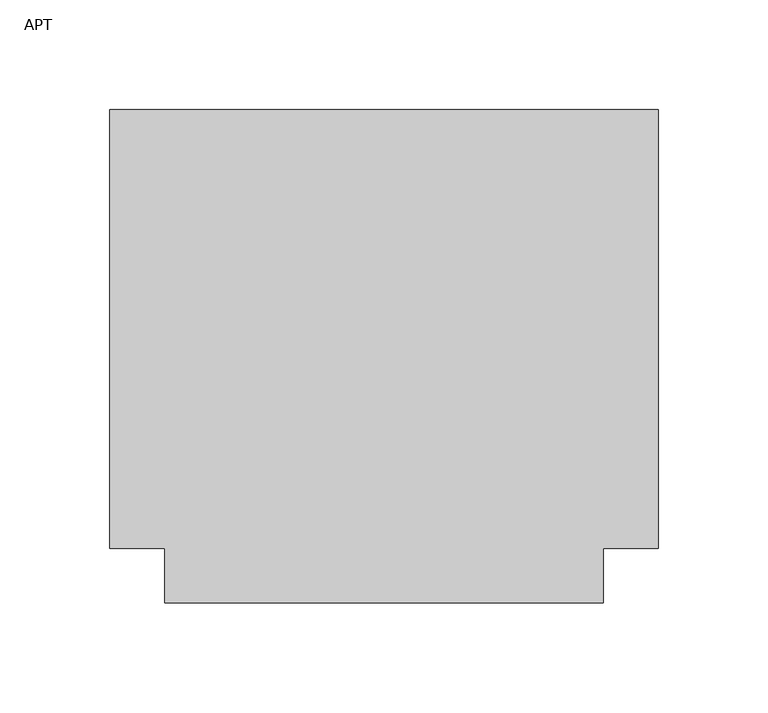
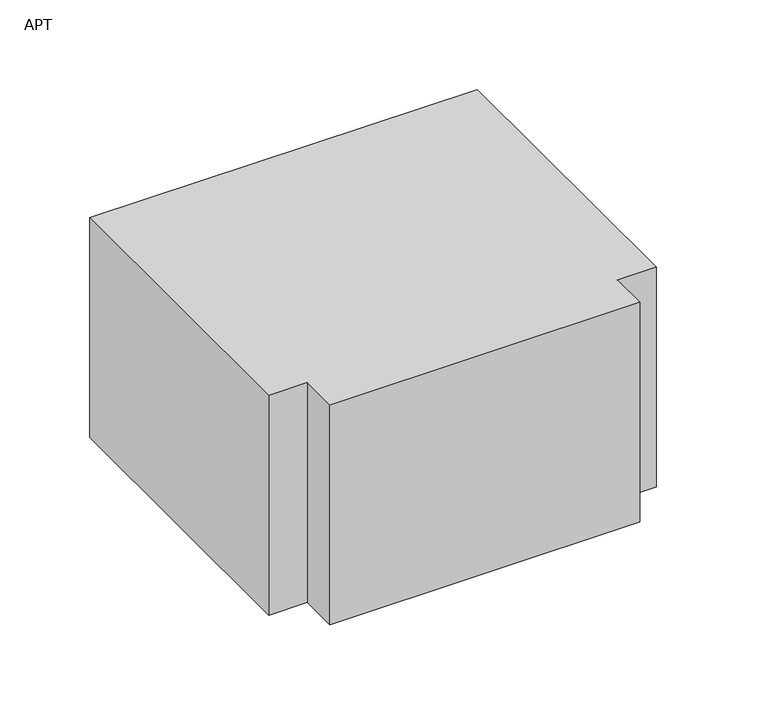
"""IFC4 building model written with IfcOpenShell, lengths in millimetres: duct fitting geometry, M_Te rectangular : APT."""

import ifcopenshell
import ifcopenshell.guid

model = None  # the IFC model being written
_history = None  # IfcOwnerHistory: only IFC2X3 demands one
_inside = {}  # id of a spatial element -> (the spatial element, [elements in it])
_under = {}  # id of a project, library or spatial element -> (it, [spatial elements below it])
_declared = {}  # id of a project -> (the project, [libraries it declares])
_typed = {}  # id of a type object -> (the type object, [elements of that type])
_made_of = {}  # id of a material, layer set ... -> (it, [elements and type objects made of it])


def new_model(schema):
    """Start an empty IFC model of exactly this schema.

    Asked for "IFC4X3", IfcOpenShell would pick the latest addendum, in which some entities
    have other attributes; the version numbers below select the first issue.
    IFC2X3 requires an IfcOwnerHistory on every rooted entity: one is made here for all.
    """
    global model, _history
    if schema == "IFC4X3":
        model = ifcopenshell.file(schema_version=(4, 3, 0, 0))
    else:
        model = ifcopenshell.file(schema=schema)
    _inside.clear()
    _under.clear()
    _declared.clear()
    _typed.clear()
    _made_of.clear()
    _history = None
    if model.schema == "IFC2X3":
        org = make("IfcOrganization", Name="unknown")
        user = make(
            "IfcPersonAndOrganization",
            ThePerson=make("IfcPerson", FamilyName="unknown"),
            TheOrganization=org,
        )
        app = make(
            "IfcApplication",
            ApplicationDeveloper=org,
            Version="unknown",
            ApplicationFullName="unknown",
            ApplicationIdentifier="unknown",
        )
        _history = make(
            "IfcOwnerHistory",
            OwningUser=user,
            OwningApplication=app,
            ChangeAction="ADDED",
            CreationDate=0,
        )
    return model


def make(cls, **values):
    """One entity of the class cls with the attributes given. An attribute that is None is left unset."""
    return model.create_entity(
        cls, **{name: value for name, value in values.items() if value is not None}
    )


def rooted(cls, **values):
    """An entity with a GlobalId (a new one), such as an element, a storey or a relation."""
    return make(cls, GlobalId=ifcopenshell.guid.new(), OwnerHistory=_history, **values)


def si_unit(unit_type, name, prefix=None):
    """IfcSIUnit, for example si_unit("LENGTHUNIT", "METRE", prefix="MILLI")."""
    return make("IfcSIUnit", UnitType=unit_type, Prefix=prefix, Name=name)


def assignment(units):
    """IfcUnitAssignment: the units of a project."""
    return None if units is None else make("IfcUnitAssignment", Units=units)


def point(xyz):
    """IfcCartesianPoint."""
    return None if xyz is None else make("IfcCartesianPoint", Coordinates=xyz)


def direction(xyz):
    """IfcDirection."""
    return None if xyz is None else make("IfcDirection", DirectionRatios=xyz)


def frame(location, z_axis=None, x_axis=None):
    """IfcAxis2Placement3D, a coordinate frame: its origin and axes. An axis left out is left unset."""
    return make(
        "IfcAxis2Placement3D",
        Location=point(location),
        Axis=direction(z_axis),
        RefDirection=direction(x_axis),
    )


def origin():
    """The frame at (0, 0, 0) with its axes left unset."""
    return frame((0.0, 0.0, 0.0))


def place(relative_to, where):
    """IfcLocalPlacement: puts the frame where relative to a parent placement (None: the world)."""
    return make(
        "IfcLocalPlacement", PlacementRelTo=relative_to, RelativePlacement=where
    )


def context(
    kind, dimensions, precision=None, world=None, true_north=None, identifier=None
):
    """IfcGeometricRepresentationContext, for example the 3D "Model" context."""
    return make(
        "IfcGeometricRepresentationContext",
        ContextIdentifier=identifier,
        ContextType=kind,
        CoordinateSpaceDimension=dimensions,
        Precision=precision,
        WorldCoordinateSystem=world,
        TrueNorth=true_north,
    )


def project(units=None, contexts=None):
    """IfcProject with its units and contexts."""
    return rooted(
        "IfcProject",
        Name="project",
        RepresentationContexts=contexts,
        UnitsInContext=assignment(units),
    )


def spatial(cls, under=None, at=None, **own):
    """A site, building, storey or space (cls), placed at a placement, below another one or the project."""
    s = rooted(cls, ObjectPlacement=at, **own)
    if under is not None:
        _under.setdefault(under.id(), (under, []))[1].append(s)
    return s


def polyline(points):
    """IfcPolyline through the points."""
    return make("IfcPolyline", Points=[point(p) for p in points])


def outline(outer, holes=None, kind="AREA"):
    """IfcArbitraryClosedProfileDef: a profile drawn as a closed curve; with holes, ...WithVoids."""
    if holes is None:
        return make("IfcArbitraryClosedProfileDef", ProfileType=kind, OuterCurve=outer)
    return make(
        "IfcArbitraryProfileDefWithVoids",
        ProfileType=kind,
        OuterCurve=outer,
        InnerCurves=holes,
    )


def extrude(swept, where, along, depth):
    """IfcExtrudedAreaSolid: the profile swept, set in the frame where, extruded along a direction by depth."""
    return make(
        "IfcExtrudedAreaSolid",
        SweptArea=swept,
        Position=where,
        ExtrudedDirection=direction(along),
        Depth=depth,
    )


def shape(context_of_items, identifier, shape_type, items):
    """IfcShapeRepresentation: the items that make up one representation, for example the "Body"."""
    return make(
        "IfcShapeRepresentation",
        ContextOfItems=context_of_items,
        RepresentationIdentifier=identifier,
        RepresentationType=shape_type,
        Items=items,
    )


def source(mapping_origin, context_of_items, identifier, shape_type, items):
    """IfcRepresentationMap: a shape defined once, which mapped items show again and again."""
    return make(
        "IfcRepresentationMap",
        MappingOrigin=mapping_origin,
        MappedRepresentation=shape(context_of_items, identifier, shape_type, items),
    )


def transform(
    local_origin,
    x_axis=None,
    y_axis=None,
    z_axis=None,
    scale=None,
    scale2=None,
    scale3=None,
    uniform=True,
):
    """IfcCartesianTransformationOperator3D, or its non-uniform kind. x_axis, y_axis, z_axis: its Axis1, 2, 3."""
    if uniform:
        return make(
            "IfcCartesianTransformationOperator3D",
            Axis1=direction(x_axis),
            Axis2=direction(y_axis),
            LocalOrigin=point(local_origin),
            Scale=scale,
            Axis3=direction(z_axis),
        )
    return make(
        "IfcCartesianTransformationOperator3DnonUniform",
        Axis1=direction(x_axis),
        Axis2=direction(y_axis),
        LocalOrigin=point(local_origin),
        Scale=scale,
        Axis3=direction(z_axis),
        Scale2=scale2,
        Scale3=scale3,
    )


def mapped(mapping_source, mapping_target):
    """IfcMappedItem: shows the shape of a source again, moved by a transform."""
    return make(
        "IfcMappedItem", MappingSource=mapping_source, MappingTarget=mapping_target
    )


def made_of(thing, what):
    """Note that an element or type object is made of a material, layer set ...; save() writes the relation."""
    if what is not None:
        _made_of.setdefault(what.id(), (what, []))[1].append(thing)
    return thing


def element(
    cls,
    number,
    at=None,
    inside=None,
    cuts=None,
    type_object=None,
    material=None,
    context=None,
    identifier="Body",
    shape_type=None,
    held_by="IfcProductDefinitionShape",
    body=None,
    shapes=None,
    **own,
):
    """One element of the class cls, such as IfcWall. Its Tag is "e" and its number.

    at: its placement. inside: the storey or other place that contains it. cuts: it is an
    opening in that element (IfcRelVoidsElement). A single representation is given by context,
    identifier, shape_type and body (its items); several are given by shapes. held_by: the class
    of the entity that holds the representations. save() writes the other relations.
    """
    e = rooted(cls, Tag="e%d" % number, ObjectPlacement=at, **own)
    if body is not None:
        shapes = [shape(context, identifier, shape_type, body)]
    if shapes is not None:
        e.Representation = make(held_by, Representations=shapes)
    if inside is not None:
        _inside.setdefault(inside.id(), (inside, []))[1].append(e)
    if cuts is not None:
        rooted(
            "IfcRelVoidsElement", RelatingBuildingElement=cuts, RelatedOpeningElement=e
        )
    if type_object is not None:
        _typed.setdefault(type_object.id(), (type_object, []))[1].append(e)
    return made_of(e, material)


def aggregate(whole, parts):
    """IfcRelAggregates: a whole, such as a stair, and the parts it consists of."""
    return rooted("IfcRelAggregates", RelatingObject=whole, RelatedObjects=parts)


def save(model, path):
    """Write the relations noted so far, then the file.

    IfcRelAggregates (storeys below a building ...), IfcRelContainedInSpatialStructure (elements
    in a storey), IfcRelDefinesByType, IfcRelAssociatesMaterial and IfcRelDeclares: one each for
    every whole, place, type object, material and project.
    """
    for whole, parts in _under.values():
        aggregate(whole, parts)
    for where, things in _inside.values():
        rooted(
            "IfcRelContainedInSpatialStructure",
            RelatedElements=things,
            RelatingStructure=where,
        )
    for kind, things in _typed.values():
        rooted("IfcRelDefinesByType", RelatedObjects=things, RelatingType=kind)
    for what, things in _made_of.values():
        rooted("IfcRelAssociatesMaterial", RelatedObjects=things, RelatingMaterial=what)
    for by, libraries in _declared.values():
        rooted("IfcRelDeclares", RelatingContext=by, RelatedDefinitions=libraries)
    model.write(path)


def apt_33348139(model_context):
    return source(origin(), model_context, "Body", "SweptSolid", [
        extrude(outline(polyline([(-125.0, -100.0), (-125.0, 100.0), (125.0, 100.0), (125.0, -100.0), (100.0, -100.0), (100.0, -125.0), (-100.0, -125.0), (-100.0, -100.0), (-125.0, -100.0)])), frame((0.0, 0.0, -75.0), z_axis=(0.0, 0.0, 1.0), x_axis=(1.0, 0.0, 0.0)), (0.0, 0.0, 1.0), 150.0),
    ])


if __name__ == "__main__":
    model = new_model("IFC4")
    model_context = context("Model", 3, world=origin())
    ifc_project = project(units=[si_unit("LENGTHUNIT", "METRE", prefix="MILLI")], contexts=[model_context])
    site = spatial("IfcSite", under=ifc_project)
    building = spatial("IfcBuilding", under=site)
    placement = place(None, origin())
    apt_shape = apt_33348139(model_context)
    element("IfcDuctFitting", 1, ObjectType="M_Te rectangular : APT", at=placement, inside=building, context=model_context, shape_type="MappedRepresentation", body=[
        mapped(apt_shape, transform((0.0, 0.0, 0.0), x_axis=(1.0, 0.0, 0.0), y_axis=(0.0, 1.0, 0.0), z_axis=(0.0, 0.0, 1.0))),
    ])
    save(model, "model.ifc")
